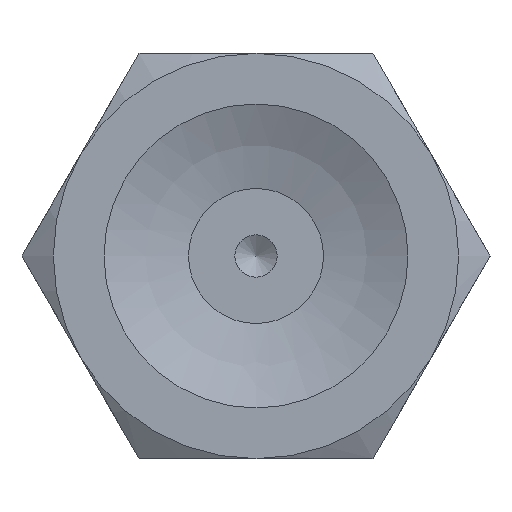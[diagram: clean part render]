
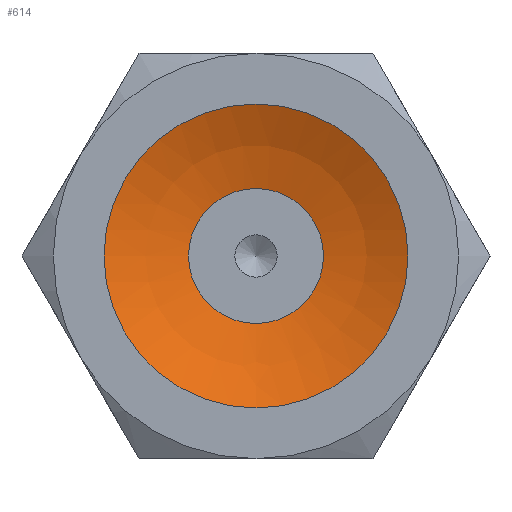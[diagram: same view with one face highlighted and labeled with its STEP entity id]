
A CAD part, front view. The second image highlights one B-rep face of the part: STEP entity #614.
In plain terms, the highlighted spherical face has radius 10.203 mm.
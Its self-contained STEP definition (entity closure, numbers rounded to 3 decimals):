
#614=ADVANCED_FACE('',(#894,#895),#896,.F.);
#894=FACE_OUTER_BOUND('',#1239,.T.);
#895=FACE_OUTER_BOUND('',#1240,.T.);
#896=SPHERICAL_SURFACE('',#1241,10.203);
#1239=EDGE_LOOP('',(#1995));
#1240=EDGE_LOOP('',(#1996));
#1241=AXIS2_PLACEMENT_3D('',#1997,#1998,#1999);
#1995=ORIENTED_EDGE('',*,*,#2375,.T.);
#1996=ORIENTED_EDGE('',*,*,#2376,.F.);
#1997=CARTESIAN_POINT('',(0.,-9.157,0.));
#1998=DIRECTION('',(0.0,-1.0,0.));
#1999=DIRECTION('',(1.0,0.0,0.0));
#2375=EDGE_CURVE('',#2716,#2716,#2717,.T.);
#2376=EDGE_CURVE('',#2718,#2718,#2719,.T.);
#2716=VERTEX_POINT('',#3662);
#2717=CIRCLE('',#3663,4.5);
#2718=VERTEX_POINT('',#3664);
#2719=CIRCLE('',#3665,2.);
#3662=CARTESIAN_POINT('',(0.0,0.,-4.5));
#3663=AXIS2_PLACEMENT_3D('',#4027,#4028,#4029);
#3664=CARTESIAN_POINT('',(0.0,0.848,-2.));
#3665=AXIS2_PLACEMENT_3D('',#4030,#4031,#4032);
#4027=CARTESIAN_POINT('',(0.0,0.,0.0));
#4028=DIRECTION('',(0.0,-1.0,0.));
#4029=DIRECTION('',(0.0,0.,-1.0));
#4030=CARTESIAN_POINT('',(0.0,0.848,0.0));
#4031=DIRECTION('',(0.0,-1.0,0.));
#4032=DIRECTION('',(0.0,0.,-1.0));
